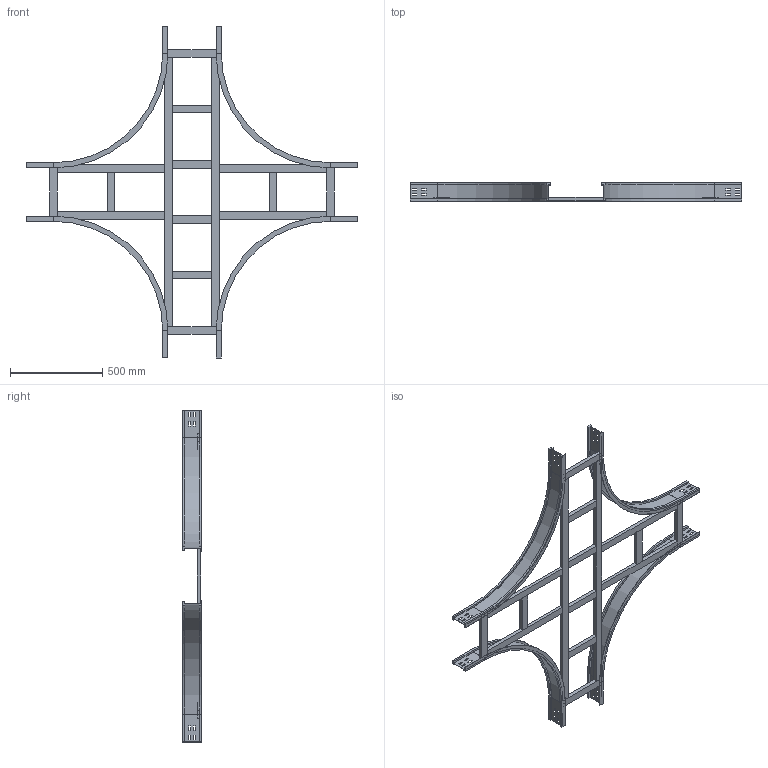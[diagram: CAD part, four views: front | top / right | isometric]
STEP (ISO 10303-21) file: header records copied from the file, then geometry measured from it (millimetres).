
FILE_DESCRIPTION (( 'STEP AP214' ), '1' );
FILE_NAME ('17S6D300.step', '2025-02-21T16:16:28', ( '' ), ( '' ), 'SwSTEP 2.0', 'SolidWorks 2023', '' );
FILE_SCHEMA (( 'AUTOMOTIVE_DESIGN' ));
Length unit declared in the file: millimetre
Products named in the file (7): TRAVERSINO_VERT_R600; LONGH.INTERNO 90°_H100_R600; 17S6D300; TRAVERSINO_LONG._R600+300; TRAVERSINO_INTERMEDIO_X_R600+300; TRAVERSINO_300; TRAVERSINO_COPPIA_300
Assembly tree (20 placements, depth 2):
  17S6D300
    LONGH.INTERNO 90°_H100_R600  x4
    TRAVERSINO_300  x4
    TRAVERSINO_LONG._R600+300  x2
    TRAVERSINO_INTERMEDIO_X_R600+300  x4
    TRAVERSINO_VERT_R600  x4
    TRAVERSINO_COPPIA_300  x2
Bounding box: 1800 x 100 x 1800 mm (x, y, z)
Volume: 8886751.9 mm3; surface area: 2433093 mm2
Topology: 20 solids, 20 shells, 376 faces, 912 edges, 576 vertices
Faces by surface type: plane 352, cylinder 24
Entity records: 3188 total; most frequent: CARTESIAN_POINT 515, DIRECTION 498, ORIENTED_EDGE 480, EDGE_CURVE 240, VECTOR 228, LINE 228, VERTEX_POINT 152, AXIS2_PLACEMENT_3D 135
